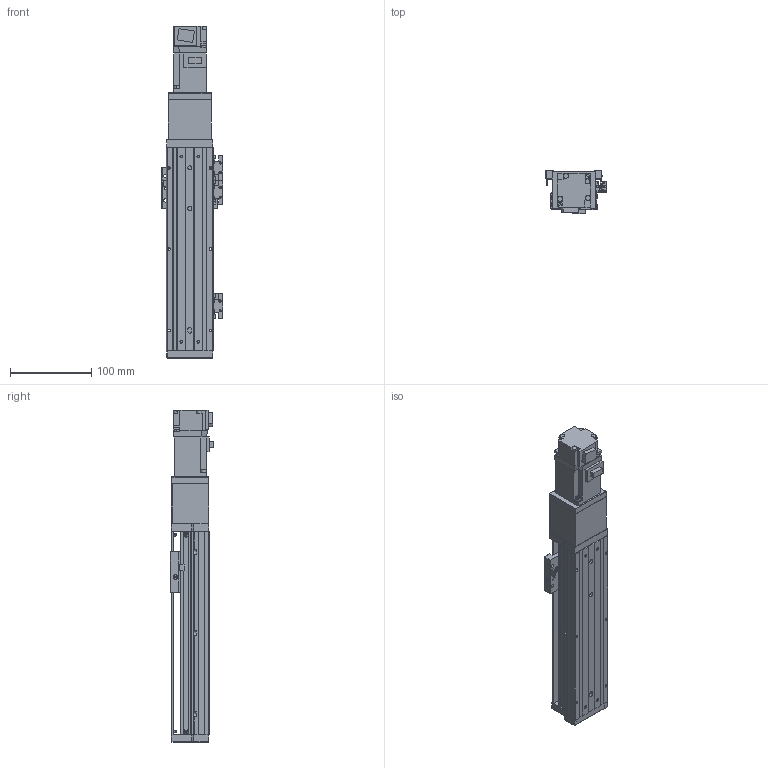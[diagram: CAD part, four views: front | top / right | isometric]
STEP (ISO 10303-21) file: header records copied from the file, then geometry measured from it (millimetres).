
FILE_DESCRIPTION (( 'STEP AP203' ), '1' );
FILE_NAME ('KTHA50-150-BC-M10-C4L.step', '2022-03-19T07:02:28', ( '微软用户' ), ( '微软中国' ), 'SwSTEP 2.0', 'SolidWorks 2020', '' );
FILE_SCHEMA (( 'CONFIG_CONTROL_DESIGN' ));
Length unit declared in the file: millimetre
Products named in the file (18): GBT77-2000 M3×3; CTHA50-027; KTHA50-001_250; GBT 70.1-M3℅6; CTHA50-006-2_CTHA60-006-2; KTHA50-002; CTHA60-017; CTHA50-013; KTHA50-004; GBT 70.1-M4×12; HG-KR13（三菱）; KTHA50-005; CTHA60-016; KTHA50-150-BC-M10-C4L; GB¨uT 70.2-M3¡Á6_M3¡Á6; CTHA60-021; EE_SX911P_R; GBT 70.3-M3℅6
Assembly tree (52 placements, depth 2):
  KTHA50-150-BC-M10-C4L
    KTHA50-001_250
    KTHA50-002
    KTHA50-004
    KTHA50-005
    GB¨uT 70.2-M3¡Á6_M3¡Á6  x6
    EE_SX911P_R  x3
    GBT77-2000 M3×3  x6
    GBT 70.1-M3℅6  x6
    CTHA60-017  x3
    GBT 70.1-M4×12  x10
    CTHA60-016  x2
    CTHA60-021  x2
    GBT 70.3-M3℅6  x6
    CTHA50-027
    CTHA50-006-2_CTHA60-006-2
    CTHA50-013
    HG-KR13（三菱）
Bounding box: 75.22 x 53.3 x 408.6 mm (x, y, z)
Volume: 716114.8 mm3; surface area: 192454.9 mm2
Topology: 55 solids, 55 shells, 2106 faces, 4954 edges, 3028 vertices
Faces by surface type: plane 1196, cylinder 494, cone 312, torus 88, sphere 16
Entity records: 32956 total; most frequent: CARTESIAN_POINT 5354, DIRECTION 5290, ORIENTED_EDGE 4980, EDGE_CURVE 2490, AXIS2_PLACEMENT_3D 1777, LINE 1736, VECTOR 1736, VERTEX_POINT 1561
